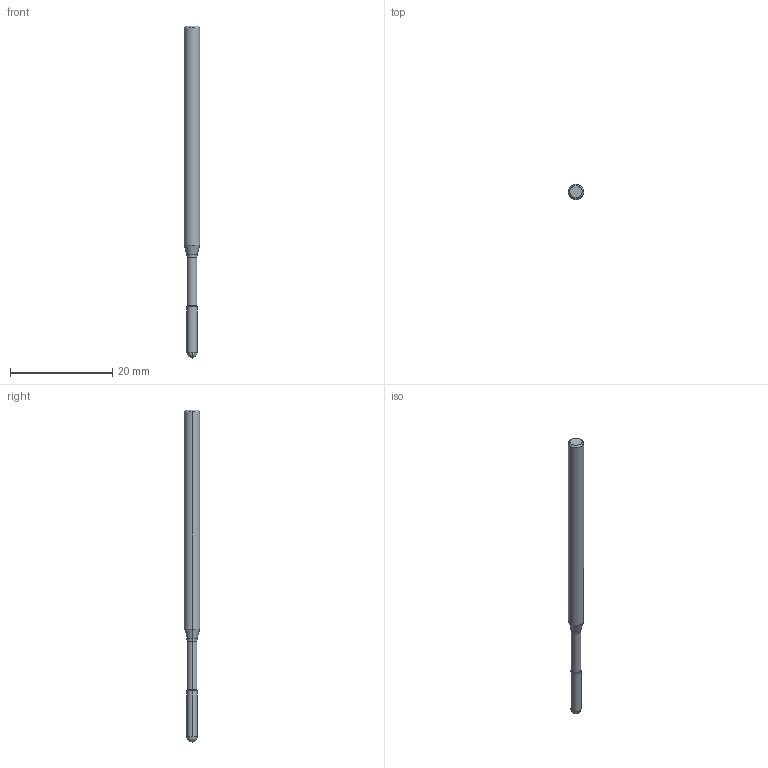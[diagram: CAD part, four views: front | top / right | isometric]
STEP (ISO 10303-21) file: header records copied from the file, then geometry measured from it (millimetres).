
FILE_DESCRIPTION (( 'STEP AP214' ), '1' );
FILE_NAME ('568.022.75_3D-model.step', '2023-08-21T08:13:01', ( '' ), ( '' ), 'SwSTEP 2.0', 'SolidWorks 2020', '' );
FILE_SCHEMA (( 'AUTOMOTIVE_DESIGN' ));
Length unit declared in the file: millimetre
Products named in the file (3): CUT-3D^Baugr198; 568.022.75_3D-model; NOCUT-3D^Baugr198
Assembly tree (2 placements, depth 2):
  568.022.75_3D-model
    CUT-3D^Baugr198
    NOCUT-3D^Baugr198
Bounding box: 3 x 3 x 65 mm (x, y, z)
Volume: 371.8 mm3; surface area: 555.3 mm2
Topology: 2 solids, 2 shells, 19 faces, 38 edges, 21 vertices
Faces by surface type: cylinder 6, cone 6, plane 3, sphere 2, torus 2
Entity records: 604 total; most frequent: DIRECTION 114, CARTESIAN_POINT 84, ORIENTED_EDGE 72, AXIS2_PLACEMENT_3D 51, EDGE_CURVE 36, CIRCLE 24, VERTEX_POINT 21, ADVANCED_FACE 19
